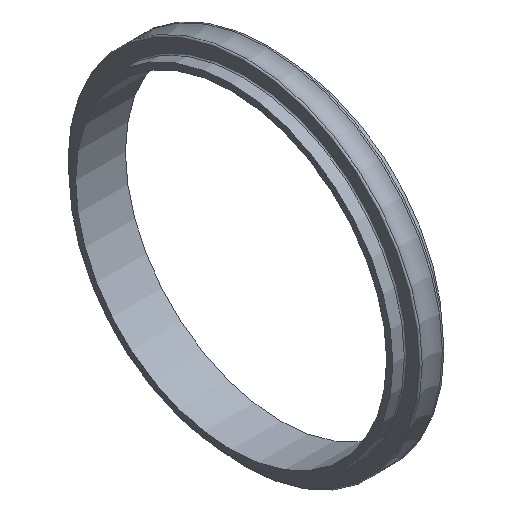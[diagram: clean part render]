
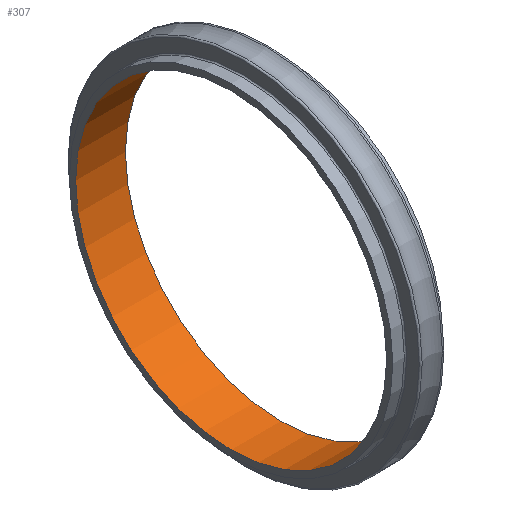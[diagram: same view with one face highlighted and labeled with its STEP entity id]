
A CAD part, isometric view. The second image highlights one B-rep face of the part: STEP entity #307.
In plain terms, the highlighted cylindrical face has radius 25 mm (diameter 50 mm), a full revolution.
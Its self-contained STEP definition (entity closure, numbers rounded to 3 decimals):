
#252=CARTESIAN_POINT('',(-8.,25.0,0.0));
#253=VERTEX_POINT('',#252);
#254=CARTESIAN_POINT('',(-8.,0.,0.0));
#255=DIRECTION('',(1.0,0.0,0.0));
#256=DIRECTION('',(0.0,1.0,0.0));
#257=AXIS2_PLACEMENT_3D('',#254,#255,#256);
#258=CIRCLE('',#257,25.);
#259=EDGE_CURVE('',#253,#253,#258,.T.);
#284=CARTESIAN_POINT('',(0.,25.0,0.0));
#285=VERTEX_POINT('',#284);
#286=CARTESIAN_POINT('',(0.,0.,0.0));
#287=DIRECTION('',(1.0,0.0,0.0));
#288=DIRECTION('',(0.0,1.0,0.0));
#289=AXIS2_PLACEMENT_3D('',#286,#287,#288);
#290=CIRCLE('',#289,25.0);
#291=EDGE_CURVE('',#285,#285,#290,.T.);
#296=CARTESIAN_POINT('',(-4.,0.,0.0));
#297=DIRECTION('',(1.0,0.,0.0));
#298=DIRECTION('',(0.0,1.0,0.0));
#299=AXIS2_PLACEMENT_3D('',#296,#297,#298);
#300=CYLINDRICAL_SURFACE('',#299,25.0);
#301=ORIENTED_EDGE('',*,*,#259,.F.);
#302=EDGE_LOOP('',(#301));
#303=FACE_OUTER_BOUND('',#302,.T.);
#304=ORIENTED_EDGE('',*,*,#291,.T.);
#305=EDGE_LOOP('',(#304));
#306=FACE_BOUND('',#305,.T.);
#307=ADVANCED_FACE('',(#303,#306),#300,.F.);
